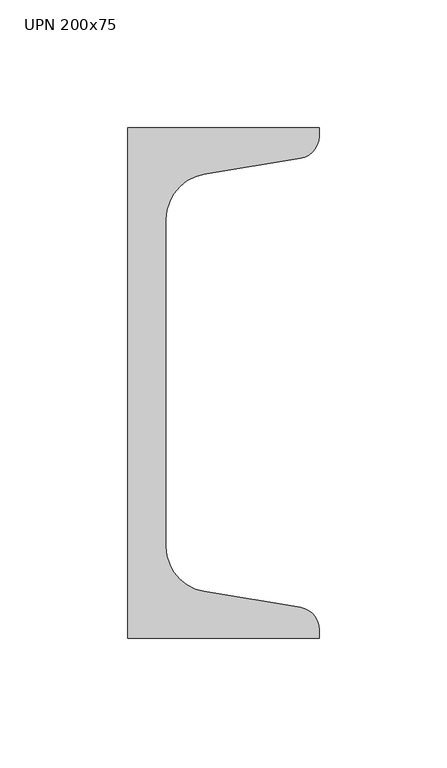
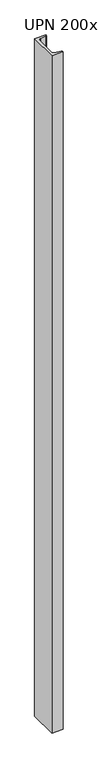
"""IFC4 building model written with IfcOpenShell, lengths in millimetres: column geometry, M_MC Shapes-Column : UPN 200x75."""

import ifcopenshell
import ifcopenshell.guid

model = None  # the IFC model being written
_history = None  # IfcOwnerHistory: only IFC2X3 demands one
_inside = {}  # id of a spatial element -> (the spatial element, [elements in it])
_under = {}  # id of a project, library or spatial element -> (it, [spatial elements below it])
_declared = {}  # id of a project -> (the project, [libraries it declares])
_typed = {}  # id of a type object -> (the type object, [elements of that type])
_made_of = {}  # id of a material, layer set ... -> (it, [elements and type objects made of it])


def new_model(schema):
    """Start an empty IFC model of exactly this schema.

    Asked for "IFC4X3", IfcOpenShell would pick the latest addendum, in which some entities
    have other attributes; the version numbers below select the first issue.
    IFC2X3 requires an IfcOwnerHistory on every rooted entity: one is made here for all.
    """
    global model, _history
    if schema == "IFC4X3":
        model = ifcopenshell.file(schema_version=(4, 3, 0, 0))
    else:
        model = ifcopenshell.file(schema=schema)
    _inside.clear()
    _under.clear()
    _declared.clear()
    _typed.clear()
    _made_of.clear()
    _history = None
    if model.schema == "IFC2X3":
        org = make("IfcOrganization", Name="unknown")
        user = make(
            "IfcPersonAndOrganization",
            ThePerson=make("IfcPerson", FamilyName="unknown"),
            TheOrganization=org,
        )
        app = make(
            "IfcApplication",
            ApplicationDeveloper=org,
            Version="unknown",
            ApplicationFullName="unknown",
            ApplicationIdentifier="unknown",
        )
        _history = make(
            "IfcOwnerHistory",
            OwningUser=user,
            OwningApplication=app,
            ChangeAction="ADDED",
            CreationDate=0,
        )
    return model


def make(cls, **values):
    """One entity of the class cls with the attributes given. An attribute that is None is left unset."""
    return model.create_entity(
        cls, **{name: value for name, value in values.items() if value is not None}
    )


def rooted(cls, **values):
    """An entity with a GlobalId (a new one), such as an element, a storey or a relation."""
    return make(cls, GlobalId=ifcopenshell.guid.new(), OwnerHistory=_history, **values)


def si_unit(unit_type, name, prefix=None):
    """IfcSIUnit, for example si_unit("LENGTHUNIT", "METRE", prefix="MILLI")."""
    return make("IfcSIUnit", UnitType=unit_type, Prefix=prefix, Name=name)


def assignment(units):
    """IfcUnitAssignment: the units of a project."""
    return None if units is None else make("IfcUnitAssignment", Units=units)


def point(xyz):
    """IfcCartesianPoint."""
    return None if xyz is None else make("IfcCartesianPoint", Coordinates=xyz)


def direction(xyz):
    """IfcDirection."""
    return None if xyz is None else make("IfcDirection", DirectionRatios=xyz)


def frame(location, z_axis=None, x_axis=None):
    """IfcAxis2Placement3D, a coordinate frame: its origin and axes. An axis left out is left unset."""
    return make(
        "IfcAxis2Placement3D",
        Location=point(location),
        Axis=direction(z_axis),
        RefDirection=direction(x_axis),
    )


def frame_2d(location, x_axis=None):
    """IfcAxis2Placement2D, a coordinate frame in the plane: its origin and x axis."""
    return make(
        "IfcAxis2Placement2D", Location=point(location), RefDirection=direction(x_axis)
    )


def origin():
    """The frame at (0, 0, 0) with its axes left unset."""
    return frame((0.0, 0.0, 0.0))


def place(relative_to, where):
    """IfcLocalPlacement: puts the frame where relative to a parent placement (None: the world)."""
    return make(
        "IfcLocalPlacement", PlacementRelTo=relative_to, RelativePlacement=where
    )


def context(
    kind, dimensions, precision=None, world=None, true_north=None, identifier=None
):
    """IfcGeometricRepresentationContext, for example the 3D "Model" context."""
    return make(
        "IfcGeometricRepresentationContext",
        ContextIdentifier=identifier,
        ContextType=kind,
        CoordinateSpaceDimension=dimensions,
        Precision=precision,
        WorldCoordinateSystem=world,
        TrueNorth=true_north,
    )


def project(units=None, contexts=None):
    """IfcProject with its units and contexts."""
    return rooted(
        "IfcProject",
        Name="project",
        RepresentationContexts=contexts,
        UnitsInContext=assignment(units),
    )


def spatial(cls, under=None, at=None, **own):
    """A site, building, storey or space (cls), placed at a placement, below another one or the project."""
    s = rooted(cls, ObjectPlacement=at, **own)
    if under is not None:
        _under.setdefault(under.id(), (under, []))[1].append(s)
    return s


def polyline(points):
    """IfcPolyline through the points."""
    return make("IfcPolyline", Points=[point(p) for p in points])


def circle_curve(where, radius):
    """IfcCircle in the frame where."""
    return make("IfcCircle", Position=where, Radius=radius)


def trimmed(basis, trim1, trim2, sense, master):
    """IfcTrimmedCurve: the piece of a basis curve between two trims."""
    return make(
        "IfcTrimmedCurve",
        BasisCurve=basis,
        Trim1=trim1,
        Trim2=trim2,
        SenseAgreement=sense,
        MasterRepresentation=master,
    )


def segment(curve, same_sense, transition):
    """IfcCompositeCurveSegment."""
    return make(
        "IfcCompositeCurveSegment",
        Transition=transition,
        SameSense=same_sense,
        ParentCurve=curve,
    )


def composite_curve(segments, self_intersect=None):
    """IfcCompositeCurve: segments joined end to end."""
    return make("IfcCompositeCurve", Segments=segments, SelfIntersect=self_intersect)


def outline(outer, holes=None, kind="AREA"):
    """IfcArbitraryClosedProfileDef: a profile drawn as a closed curve; with holes, ...WithVoids."""
    if holes is None:
        return make("IfcArbitraryClosedProfileDef", ProfileType=kind, OuterCurve=outer)
    return make(
        "IfcArbitraryProfileDefWithVoids",
        ProfileType=kind,
        OuterCurve=outer,
        InnerCurves=holes,
    )


def extrude(swept, where, along, depth):
    """IfcExtrudedAreaSolid: the profile swept, set in the frame where, extruded along a direction by depth."""
    return make(
        "IfcExtrudedAreaSolid",
        SweptArea=swept,
        Position=where,
        ExtrudedDirection=direction(along),
        Depth=depth,
    )


def shape(context_of_items, identifier, shape_type, items):
    """IfcShapeRepresentation: the items that make up one representation, for example the "Body"."""
    return make(
        "IfcShapeRepresentation",
        ContextOfItems=context_of_items,
        RepresentationIdentifier=identifier,
        RepresentationType=shape_type,
        Items=items,
    )


def source(mapping_origin, context_of_items, identifier, shape_type, items):
    """IfcRepresentationMap: a shape defined once, which mapped items show again and again."""
    return make(
        "IfcRepresentationMap",
        MappingOrigin=mapping_origin,
        MappedRepresentation=shape(context_of_items, identifier, shape_type, items),
    )


def transform(
    local_origin,
    x_axis=None,
    y_axis=None,
    z_axis=None,
    scale=None,
    scale2=None,
    scale3=None,
    uniform=True,
):
    """IfcCartesianTransformationOperator3D, or its non-uniform kind. x_axis, y_axis, z_axis: its Axis1, 2, 3."""
    if uniform:
        return make(
            "IfcCartesianTransformationOperator3D",
            Axis1=direction(x_axis),
            Axis2=direction(y_axis),
            LocalOrigin=point(local_origin),
            Scale=scale,
            Axis3=direction(z_axis),
        )
    return make(
        "IfcCartesianTransformationOperator3DnonUniform",
        Axis1=direction(x_axis),
        Axis2=direction(y_axis),
        LocalOrigin=point(local_origin),
        Scale=scale,
        Axis3=direction(z_axis),
        Scale2=scale2,
        Scale3=scale3,
    )


def mapped(mapping_source, mapping_target):
    """IfcMappedItem: shows the shape of a source again, moved by a transform."""
    return make(
        "IfcMappedItem", MappingSource=mapping_source, MappingTarget=mapping_target
    )


def made_of(thing, what):
    """Note that an element or type object is made of a material, layer set ...; save() writes the relation."""
    if what is not None:
        _made_of.setdefault(what.id(), (what, []))[1].append(thing)
    return thing


def element(
    cls,
    number,
    at=None,
    inside=None,
    cuts=None,
    type_object=None,
    material=None,
    context=None,
    identifier="Body",
    shape_type=None,
    held_by="IfcProductDefinitionShape",
    body=None,
    shapes=None,
    **own,
):
    """One element of the class cls, such as IfcWall. Its Tag is "e" and its number.

    at: its placement. inside: the storey or other place that contains it. cuts: it is an
    opening in that element (IfcRelVoidsElement). A single representation is given by context,
    identifier, shape_type and body (its items); several are given by shapes. held_by: the class
    of the entity that holds the representations. save() writes the other relations.
    """
    e = rooted(cls, Tag="e%d" % number, ObjectPlacement=at, **own)
    if body is not None:
        shapes = [shape(context, identifier, shape_type, body)]
    if shapes is not None:
        e.Representation = make(held_by, Representations=shapes)
    if inside is not None:
        _inside.setdefault(inside.id(), (inside, []))[1].append(e)
    if cuts is not None:
        rooted(
            "IfcRelVoidsElement", RelatingBuildingElement=cuts, RelatedOpeningElement=e
        )
    if type_object is not None:
        _typed.setdefault(type_object.id(), (type_object, []))[1].append(e)
    return made_of(e, material)


def aggregate(whole, parts):
    """IfcRelAggregates: a whole, such as a stair, and the parts it consists of."""
    return rooted("IfcRelAggregates", RelatingObject=whole, RelatedObjects=parts)


def save(model, path):
    """Write the relations noted so far, then the file.

    IfcRelAggregates (storeys below a building ...), IfcRelContainedInSpatialStructure (elements
    in a storey), IfcRelDefinesByType, IfcRelAssociatesMaterial and IfcRelDeclares: one each for
    every whole, place, type object, material and project.
    """
    for whole, parts in _under.values():
        aggregate(whole, parts)
    for where, things in _inside.values():
        rooted(
            "IfcRelContainedInSpatialStructure",
            RelatedElements=things,
            RelatingStructure=where,
        )
    for kind, things in _typed.values():
        rooted("IfcRelDefinesByType", RelatedObjects=things, RelatingType=kind)
    for what, things in _made_of.values():
        rooted("IfcRelAssociatesMaterial", RelatedObjects=things, RelatingMaterial=what)
    for by, libraries in _declared.values():
        rooted("IfcRelDeclares", RelatingContext=by, RelatedDefinitions=libraries)
    model.write(path)


def upn_200x75_e6625032(model_context):
    return source(origin(), model_context, "Body", "SweptSolid", [
        extrude(outline(composite_curve([segment(polyline([(-26.4, -100.0), (-26.4, 100.0), (48.6, 100.0), (48.6, 96.7227759)]), True, "CONTINUOUS"), segment(trimmed(circle_curve(frame_2d((39.7, 96.7227759)), 8.9), [point((48.6, 96.7227759))], [point((41.1631538, 87.9438705))], False, "CARTESIAN"), True, "CONTINUOUS"), segment(polyline([(41.1631538, 87.9438705), (3.4736923, 81.662281)]), True, "CONTINUOUS"), segment(trimmed(circle_curve(frame_2d((6.4, 64.1044701)), 17.8), [point((3.4736923, 81.662281))], [point((-11.4, 64.1044701))], True, "CARTESIAN"), True, "CONTINUOUS"), segment(polyline([(-11.4, 64.1044701), (-11.4, -64.1044701)]), True, "CONTINUOUS"), segment(trimmed(circle_curve(frame_2d((6.4, -64.1044701)), 17.8), [point((-11.4, -64.1044701))], [point((3.4736923, -81.662281))], True, "CARTESIAN"), True, "CONTINUOUS"), segment(polyline([(3.4736923, -81.662281), (41.1631538, -87.9438705)]), True, "CONTINUOUS"), segment(trimmed(circle_curve(frame_2d((39.7, -96.7227759)), 8.9), [point((41.1631538, -87.9438705))], [point((48.6, -96.7227759))], False, "CARTESIAN"), True, "CONTINUOUS"), segment(polyline([(48.6, -96.7227759), (48.6, -100.0), (-26.4, -100.0)]), True, "CONTINUOUS")], self_intersect=False)), frame((0.0, 0.0, 6330.0), z_axis=(0.0, 0.0, 1.0), x_axis=(1.0, 0.0, 0.0)), (0.0, 0.0, 1.0), 4830.0),
    ])


if __name__ == "__main__":
    model = new_model("IFC4")
    model_context = context("Model", 3, world=origin())
    ifc_project = project(units=[si_unit("LENGTHUNIT", "METRE", prefix="MILLI")], contexts=[model_context])
    site = spatial("IfcSite", under=ifc_project)
    building = spatial("IfcBuilding", under=site)
    placement = place(None, origin())
    upn_200x75_shape = upn_200x75_e6625032(model_context)
    element("IfcColumn", 1, ObjectType="M_MC Shapes-Column : UPN 200x75", at=placement, inside=building, context=model_context, shape_type="MappedRepresentation", body=[
        mapped(upn_200x75_shape, transform((0.0, 0.0, 0.0), x_axis=(1.0, 0.0, 0.0), y_axis=(0.0, 1.0, 0.0), z_axis=(0.0, 0.0, 1.0))),
    ])
    save(model, "model.ifc")
